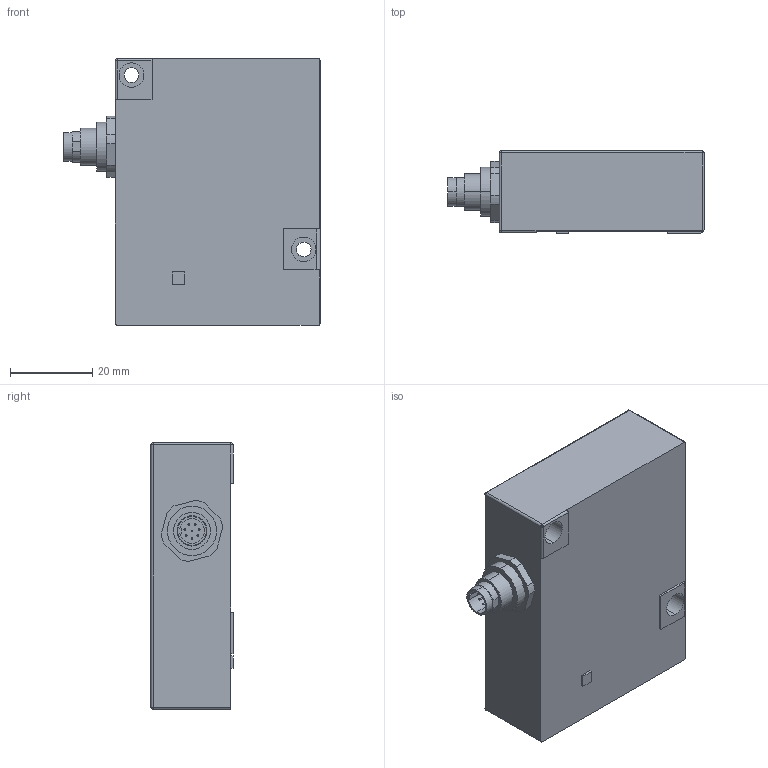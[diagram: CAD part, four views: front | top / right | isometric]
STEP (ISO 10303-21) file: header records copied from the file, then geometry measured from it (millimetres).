
FILE_DESCRIPTION (( 'STEP AP203' ), '1' );
FILE_NAME ('RF603_CC.STEP', '2011-03-17T08:19:07', ( 'Ñåðãåé Ì' ), ( '' ), 'SwSTEP 2.0', 'SolidWorks 2009', '' );
FILE_SCHEMA (( 'CONFIG_CONTROL_DESIGN' ));
Length unit declared in the file: millimetre
Products named in the file (5): G Raz_09_0427_80_08; ISO 14581_Ì2õ4_Default; Raz_09_0427_80_08_Default; RF603.00.04; RF603_CC
Assembly tree (6 placements, depth 2):
  RF603_CC
    RF603.00.04
    ISO 14581_Ì2õ4_Default  x3
    Raz_09_0427_80_08_Default
    G Raz_09_0427_80_08
Bounding box: 62.5 x 20 x 65 mm (x, y, z)
Volume: 63423.1 mm3; surface area: 13508.2 mm2
Topology: 6 solids, 6 shells, 328 faces, 792 edges, 498 vertices
Faces by surface type: plane 143, cylinder 138, cone 42, sphere 5
Entity records: 8981 total; most frequent: CARTESIAN_POINT 1656, DIRECTION 1502, ORIENTED_EDGE 1342, EDGE_CURVE 671, AXIS2_PLACEMENT_3D 570, VERTEX_POINT 430, LINE 362, VECTOR 362
